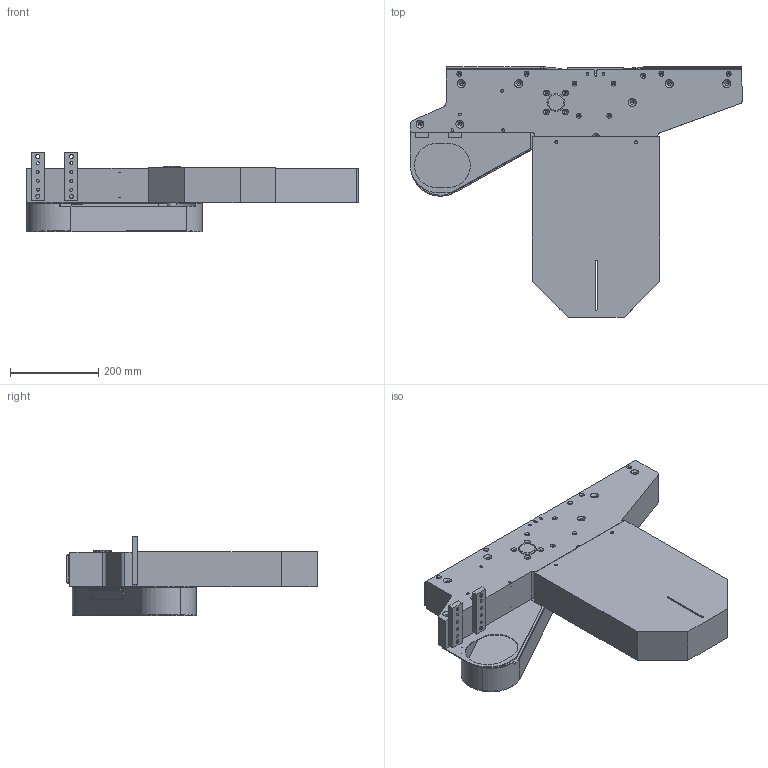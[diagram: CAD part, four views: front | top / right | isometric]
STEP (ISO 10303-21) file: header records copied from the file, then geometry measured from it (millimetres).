
FILE_DESCRIPTION (( 'STEP AP214' ), '1' );
FILE_NAME ('FSCD SD 0L.step', '2017-04-07T11:09:12', ( '' ), ( '' ), 'SwSTEP 2.0', 'SolidWorks 2016', '' );
FILE_SCHEMA (( 'AUTOMOTIVE_DESIGN' ));
Length unit declared in the file: millimetre
Products named in the file (1): FSCD SD 0L
Bounding box: 751.52 x 566.68 x 180.5 mm (x, y, z)
Volume: 16687615.2 mm3; surface area: 1007605.8 mm2
Topology: 3 solids, 3 shells, 550 faces, 1321 edges, 778 vertices
Faces by surface type: cylinder 221, cone 166, plane 143, bspline 18, torus 2
Entity records: 17869 total; most frequent: CARTESIAN_POINT 3710, DIRECTION 2771, ORIENTED_EDGE 2482, EDGE_CURVE 1241, AXIS2_PLACEMENT_3D 1057, VERTEX_POINT 778, LINE 657, VECTOR 657
